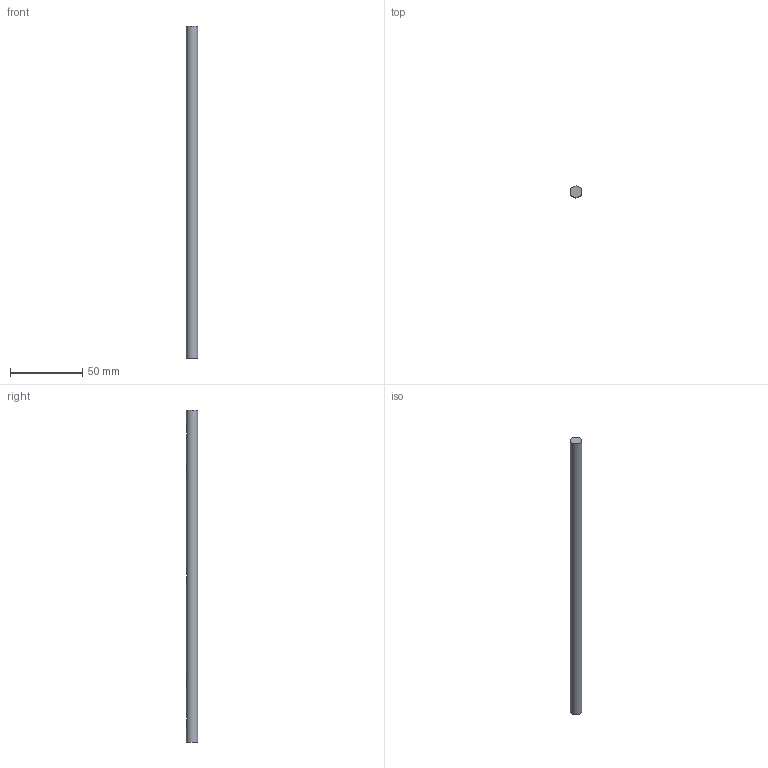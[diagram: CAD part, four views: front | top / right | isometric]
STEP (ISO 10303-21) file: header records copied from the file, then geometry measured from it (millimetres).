
FILE_DESCRIPTION(('Open CASCADE Model'),'2;1');
FILE_NAME('Open CASCADE Shape Model','2026-10-15T02:45:44',('Author'),( 'Open CASCADE'),'Open CASCADE STEP processor 7.9','Open CASCADE 7.9' ,'Unknown');
FILE_SCHEMA(('AUTOMOTIVE_DESIGN { 1 0 10303 214 1 1 1 1 }'));
Length unit declared in the file: millimetre
Products named in the file (1): Open CASCADE STEP translator 7.9 7
Bounding box: 8 x 8 x 230 mm (x, y, z)
Volume: 11495.7 mm3; surface area: 5885.6 mm2
Topology: 1 solids, 1 shells, 18 faces, 33 edges, 22 vertices
Faces by surface type: plane 17, cylinder 1
Full cylindrical faces by diameter (mm): 8 x1
Entity records: 898 total; most frequent: CARTESIAN_POINT 220, DIRECTION 119, ORIENTED_EDGE 66, PCURVE 66, DEFINITIONAL_REPRESENTATION 66, LINE 55, VECTOR 55, EDGE_CURVE 33
